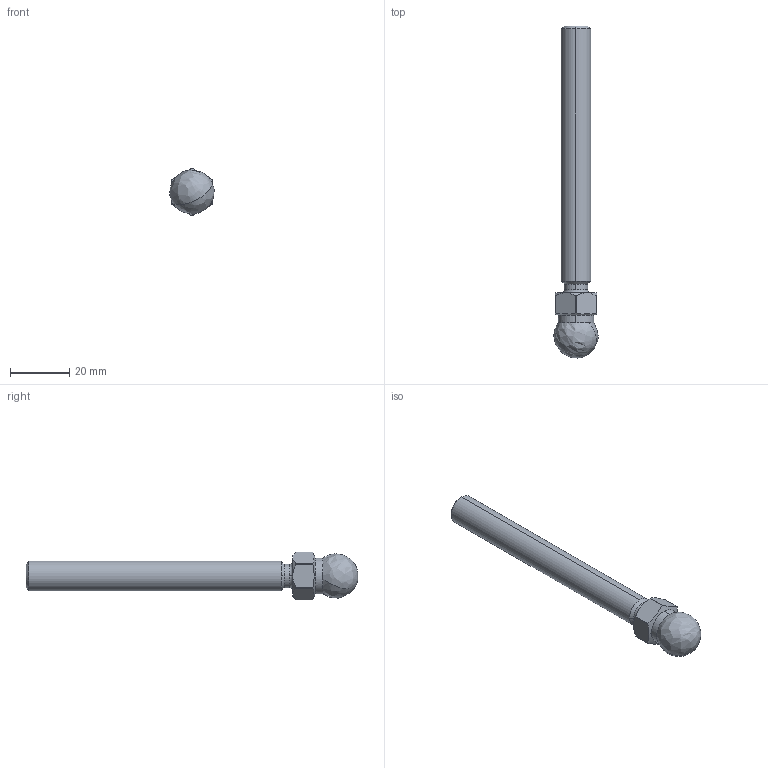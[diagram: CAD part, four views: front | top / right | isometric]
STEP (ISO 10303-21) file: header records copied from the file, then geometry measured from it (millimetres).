
FILE_DESCRIPTION (( 'STEP AP214' ), '1' );
FILE_NAME ('6.04.sptr1090.STEP', '2015-05-31T08:20:48', ( '' ), ( '' ), 'SwSTEP 2.0', 'SolidWorks 2015', '' );
FILE_SCHEMA (( 'AUTOMOTIVE_DESIGN' ));
Length unit declared in the file: millimetre
Products named in the file (1): 6.04.sptr1090
Bounding box: 14.94 x 111.92 x 16.1 mm (x, y, z)
Volume: 10079.7 mm3; surface area: 4033.6 mm2
Topology: 1 solids, 1 shells, 37 faces, 103 edges, 67 vertices
Faces by surface type: cylinder 13, cone 12, plane 8, bspline 4
Entity records: 1457 total; most frequent: CARTESIAN_POINT 494, ORIENTED_EDGE 202, DIRECTION 195, EDGE_CURVE 101, AXIS2_PLACEMENT_3D 82, VERTEX_POINT 67, CIRCLE 48, EDGE_LOOP 38
